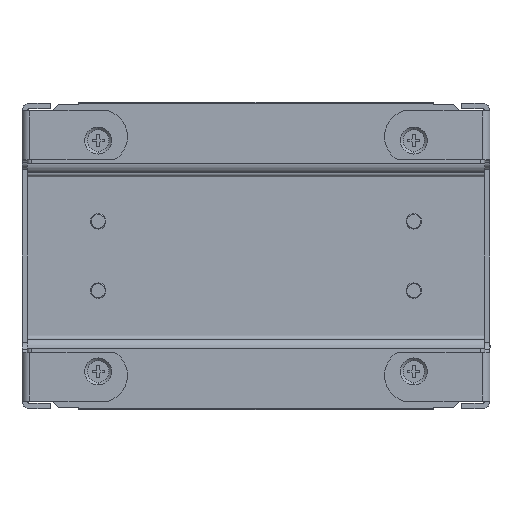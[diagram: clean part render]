
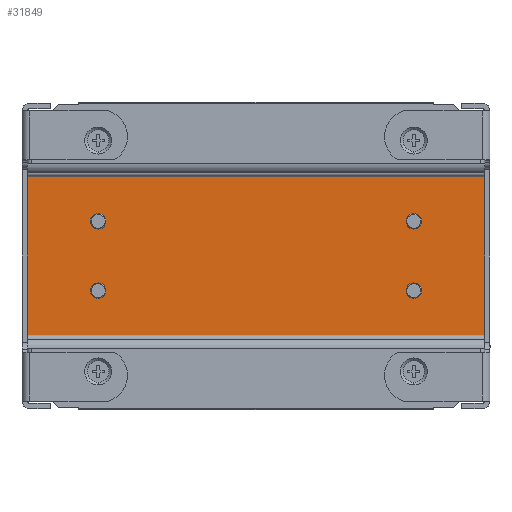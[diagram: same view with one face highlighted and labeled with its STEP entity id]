
A CAD part, front view. The second image highlights one B-rep face of the part: STEP entity #31849.
In plain terms, the highlighted planar face has unit normal (0, -1, 0).
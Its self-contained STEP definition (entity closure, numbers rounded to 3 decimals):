
#3313 = DIRECTION ( 'NONE',  ( 1., 0., 0. ) ) ;
#3314 = VECTOR ( 'NONE', #3313, 1000. ) ;
#3315 = CARTESIAN_POINT ( 'NONE',  ( -20.3, 8.5, -11.75 ) ) ;
#3316 = LINE ( 'NONE', #3315, #3314 ) ;
#3317 = DIRECTION ( 'NONE',  ( -1., 0., 0. ) ) ;
#3318 = VECTOR ( 'NONE', #3317, 1000. ) ;
#3319 = CARTESIAN_POINT ( 'NONE',  ( -79.7, 8.5, 11.75 ) ) ;
#3320 = LINE ( 'NONE', #3319, #3318 ) ;
#3351 = DIRECTION ( 'NONE',  ( 0., 0., 1. ) ) ;
#3352 = DIRECTION ( 'NONE',  ( 0., 1., 0. ) ) ;
#3353 = CARTESIAN_POINT ( 'NONE',  ( -200., 8.5, -12. ) ) ;
#3354 = AXIS2_PLACEMENT_3D ( 'NONE', #3353, #3352, #3351 ) ;
#3355 = PLANE ( 'NONE',  #3354 ) ;
#3356 = FACE_OUTER_BOUND ( 'NONE', #31815, .T. ) ;
#3357 = FACE_BOUND ( 'NONE', #31806, .T. ) ;
#3358 = FACE_BOUND ( 'NONE', #31737, .T. ) ;
#3359 = FACE_BOUND ( 'NONE', #31863, .T. ) ;
#3360 = FACE_BOUND ( 'NONE', #31851, .T. ) ;
#26176 = EDGE_CURVE ( 'NONE', #26177, #26179, #26414, .T. ) ;
#26177 = VERTEX_POINT ( 'NONE', #26405 ) ;
#26179 = VERTEX_POINT ( 'NONE', #26404 ) ;
#26191 = EDGE_CURVE ( 'NONE', #26192, #26194, #26526, .T. ) ;
#26192 = VERTEX_POINT ( 'NONE', #26506 ) ;
#26194 = VERTEX_POINT ( 'NONE', #26504 ) ;
#26217 = EDGE_CURVE ( 'NONE', #26220, #26222, #26586, .T. ) ;
#26220 = VERTEX_POINT ( 'NONE', #26578 ) ;
#26222 = VERTEX_POINT ( 'NONE', #26576 ) ;
#26389 = EDGE_CURVE ( 'NONE', #26390, #26391, #27037, .T. ) ;
#26390 = VERTEX_POINT ( 'NONE', #27180 ) ;
#26391 = VERTEX_POINT ( 'NONE', #27178 ) ;
#26404 = CARTESIAN_POINT ( 'NONE',  ( -70.5, 8.5, 3.5 ) ) ;
#26405 = CARTESIAN_POINT ( 'NONE',  ( -70.5, 8.5, 5.5 ) ) ;
#26407 = DIRECTION ( 'NONE',  ( 0., 0., 1. ) ) ;
#26409 = DIRECTION ( 'NONE',  ( 0., -1., 0. ) ) ;
#26410 = CARTESIAN_POINT ( 'NONE',  ( -70.5, 8.5, 4.5 ) ) ;
#26412 = AXIS2_PLACEMENT_3D ( 'NONE', #26410, #26409, #26407 ) ;
#26414 = CIRCLE ( 'NONE', #26412, 1. ) ;
#26504 = CARTESIAN_POINT ( 'NONE',  ( -70.5, 8.5, -5.5 ) ) ;
#26506 = CARTESIAN_POINT ( 'NONE',  ( -70.5, 8.5, -3.5 ) ) ;
#26509 = DIRECTION ( 'NONE',  ( 0., 0., 1. ) ) ;
#26510 = DIRECTION ( 'NONE',  ( 0., -1., 0. ) ) ;
#26512 = CARTESIAN_POINT ( 'NONE',  ( -70.5, 8.5, -4.5 ) ) ;
#26514 = AXIS2_PLACEMENT_3D ( 'NONE', #26512, #26510, #26509 ) ;
#26526 = CIRCLE ( 'NONE', #26514, 1. ) ;
#26576 = CARTESIAN_POINT ( 'NONE',  ( -29.5, 8.5, 3.5 ) ) ;
#26578 = CARTESIAN_POINT ( 'NONE',  ( -29.5, 8.5, 5.5 ) ) ;
#26580 = DIRECTION ( 'NONE',  ( 0., 0., 1. ) ) ;
#26582 = DIRECTION ( 'NONE',  ( 0., -1., 0. ) ) ;
#26584 = AXIS2_PLACEMENT_3D ( 'NONE', #26599, #26582, #26580 ) ;
#26586 = CIRCLE ( 'NONE', #26584, 1. ) ;
#26599 = CARTESIAN_POINT ( 'NONE',  ( -29.5, 8.5, 4.5 ) ) ;
#26884 = VERTEX_POINT ( 'NONE', #29805 ) ;
#26887 = EDGE_CURVE ( 'NONE', #26888, #26884, #29803, .T. ) ;
#26888 = VERTEX_POINT ( 'NONE', #29795 ) ;
#27031 = DIRECTION ( 'NONE',  ( 0., 0., 1. ) ) ;
#27033 = DIRECTION ( 'NONE',  ( 0., -1., 0. ) ) ;
#27034 = CARTESIAN_POINT ( 'NONE',  ( -29.5, 8.5, -4.5 ) ) ;
#27036 = AXIS2_PLACEMENT_3D ( 'NONE', #27034, #27033, #27031 ) ;
#27037 = CIRCLE ( 'NONE', #27036, 1. ) ;
#27178 = CARTESIAN_POINT ( 'NONE',  ( -29.5, 8.5, -5.5 ) ) ;
#27180 = CARTESIAN_POINT ( 'NONE',  ( -29.5, 8.5, -3.5 ) ) ;
#27311 = VERTEX_POINT ( 'NONE', #31325 ) ;
#27314 = EDGE_CURVE ( 'NONE', #27316, #27311, #31320, .T. ) ;
#27316 = VERTEX_POINT ( 'NONE', #31313 ) ;
#28290 = EDGE_CURVE ( 'NONE', #26194, #26192, #34563, .T. ) ;
#28365 = EDGE_CURVE ( 'NONE', #26179, #26177, #34719, .T. ) ;
#29795 = CARTESIAN_POINT ( 'NONE',  ( -20.3, 8.5, -11.75 ) ) ;
#29797 = DIRECTION ( 'NONE',  ( 0., 0., 1. ) ) ;
#29799 = VECTOR ( 'NONE', #29797, 1000. ) ;
#29801 = CARTESIAN_POINT ( 'NONE',  ( -20.3, 8.5, -12. ) ) ;
#29803 = LINE ( 'NONE', #29801, #29799 ) ;
#29805 = CARTESIAN_POINT ( 'NONE',  ( -20.3, 8.5, 11.75 ) ) ;
#29936 = EDGE_CURVE ( 'NONE', #26222, #26220, #41250, .T. ) ;
#29949 = EDGE_CURVE ( 'NONE', #26391, #26390, #41233, .T. ) ;
#31313 = CARTESIAN_POINT ( 'NONE',  ( -79.7, 8.5, 11.75 ) ) ;
#31315 = DIRECTION ( 'NONE',  ( 0., 0., -1. ) ) ;
#31317 = VECTOR ( 'NONE', #31315, 1000. ) ;
#31318 = CARTESIAN_POINT ( 'NONE',  ( -79.7, 8.5, -12. ) ) ;
#31320 = LINE ( 'NONE', #31318, #31317 ) ;
#31325 = CARTESIAN_POINT ( 'NONE',  ( -79.7, 8.5, -11.75 ) ) ;
#31728 = ORIENTED_EDGE ( 'NONE', *, *, #26389, .F. ) ;
#31732 = ORIENTED_EDGE ( 'NONE', *, *, #29949, .F. ) ;
#31737 = EDGE_LOOP ( 'NONE', ( #31799, #31803 ) ) ;
#31799 = ORIENTED_EDGE ( 'NONE', *, *, #26217, .F. ) ;
#31803 = ORIENTED_EDGE ( 'NONE', *, *, #29936, .F. ) ;
#31806 = EDGE_LOOP ( 'NONE', ( #31808, #31812 ) ) ;
#31808 = ORIENTED_EDGE ( 'NONE', *, *, #26176, .F. ) ;
#31812 = ORIENTED_EDGE ( 'NONE', *, *, #28365, .F. ) ;
#31815 = EDGE_LOOP ( 'NONE', ( #31819, #31823, #31831, #31834 ) ) ;
#31819 = ORIENTED_EDGE ( 'NONE', *, *, #26887, .T. ) ;
#31823 = ORIENTED_EDGE ( 'NONE', *, *, #31827, .T. ) ;
#31827 = EDGE_CURVE ( 'NONE', #26884, #27316, #3320, .T. ) ;
#31831 = ORIENTED_EDGE ( 'NONE', *, *, #27314, .T. ) ;
#31834 = ORIENTED_EDGE ( 'NONE', *, *, #31836, .T. ) ;
#31836 = EDGE_CURVE ( 'NONE', #27311, #26888, #3316, .T. ) ;
#31849 = ADVANCED_FACE ( 'NONE', ( #3360, #3359, #3358, #3357, #3356 ), #3355, .F. ) ;
#31851 = EDGE_LOOP ( 'NONE', ( #31858, #31860 ) ) ;
#31858 = ORIENTED_EDGE ( 'NONE', *, *, #26191, .F. ) ;
#31860 = ORIENTED_EDGE ( 'NONE', *, *, #28290, .F. ) ;
#31863 = EDGE_LOOP ( 'NONE', ( #31728, #31732 ) ) ;
#34556 = DIRECTION ( 'NONE',  ( 0., 0., 1. ) ) ;
#34558 = DIRECTION ( 'NONE',  ( 0., -1., 0. ) ) ;
#34560 = CARTESIAN_POINT ( 'NONE',  ( -70.5, 8.5, -4.5 ) ) ;
#34561 = AXIS2_PLACEMENT_3D ( 'NONE', #34560, #34558, #34556 ) ;
#34563 = CIRCLE ( 'NONE', #34561, 1. ) ;
#34712 = DIRECTION ( 'NONE',  ( 0., 0., 1. ) ) ;
#34714 = DIRECTION ( 'NONE',  ( 0., -1., 0. ) ) ;
#34715 = CARTESIAN_POINT ( 'NONE',  ( -70.5, 8.5, 4.5 ) ) ;
#34717 = AXIS2_PLACEMENT_3D ( 'NONE', #34715, #34714, #34712 ) ;
#34719 = CIRCLE ( 'NONE', #34717, 1. ) ;
#41188 = CARTESIAN_POINT ( 'NONE',  ( -29.5, 8.5, 4.5 ) ) ;
#41230 = DIRECTION ( 'NONE',  ( 0., 0., 1. ) ) ;
#41231 = DIRECTION ( 'NONE',  ( 0., -1., 0. ) ) ;
#41232 = AXIS2_PLACEMENT_3D ( 'NONE', #41238, #41231, #41230 ) ;
#41233 = CIRCLE ( 'NONE', #41232, 1. ) ;
#41238 = CARTESIAN_POINT ( 'NONE',  ( -29.5, 8.5, -4.5 ) ) ;
#41247 = DIRECTION ( 'NONE',  ( 0., 0., 1. ) ) ;
#41248 = DIRECTION ( 'NONE',  ( 0., -1., 0. ) ) ;
#41249 = AXIS2_PLACEMENT_3D ( 'NONE', #41188, #41248, #41247 ) ;
#41250 = CIRCLE ( 'NONE', #41249, 1. ) ;
